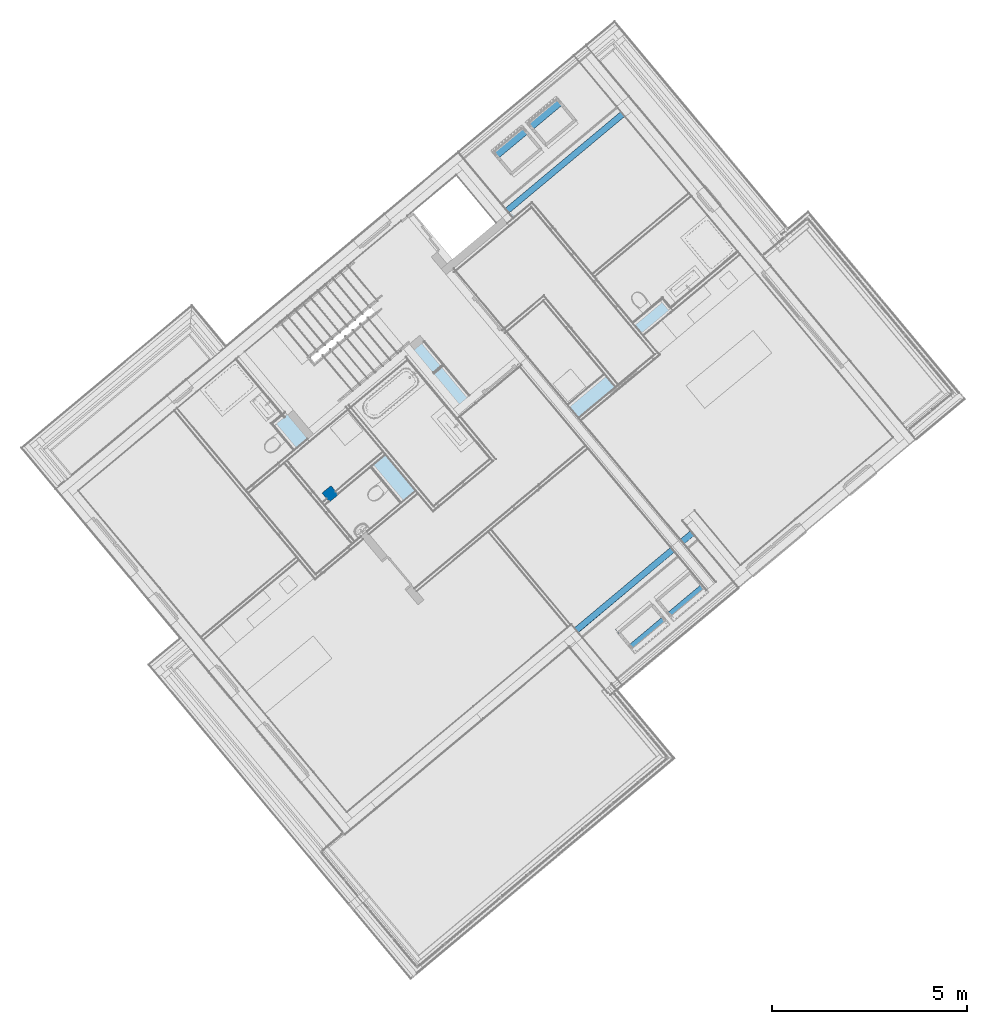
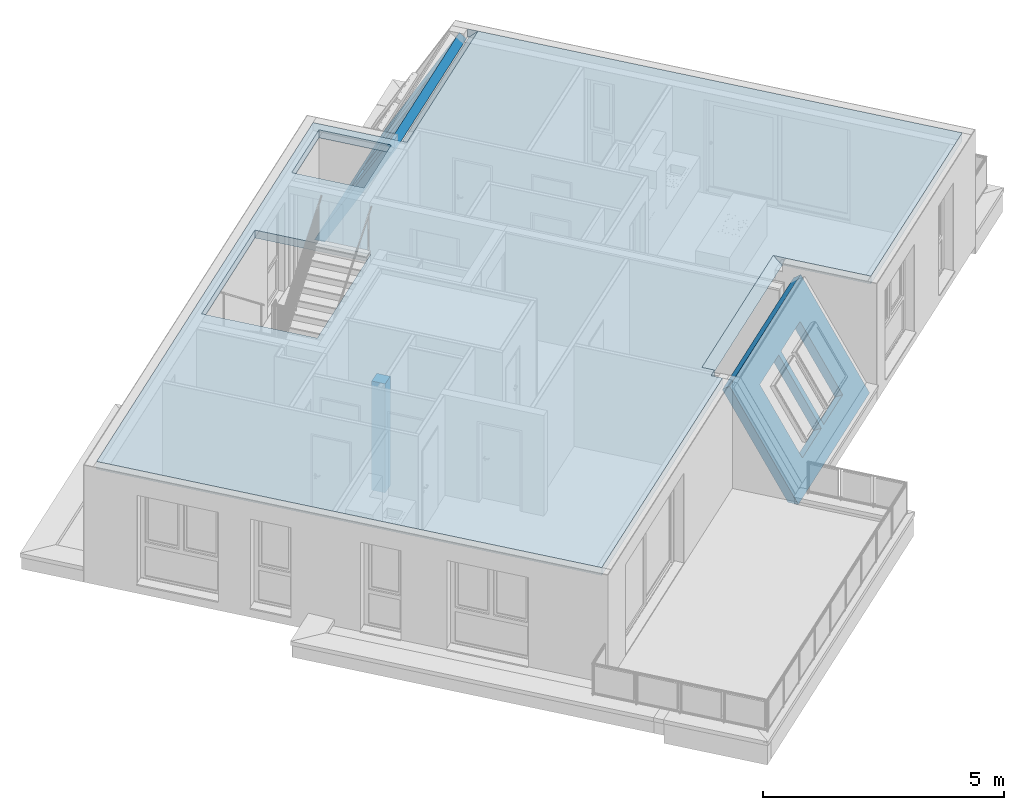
# One storey, part 8 of 58: 2 roofs, 1 column, 1 slab.
"""IFC4 building model written with IfcOpenShell, lengths in metres."""

from ifc_helpers import new_model, entity, si_unit, converted_unit, derived_unit, direction, frame, origin_with_axes, place, context, subcontext, project, spatial, polygons, material, type_object, element, save


model = new_model("IFC4")

# Units and contexts
model_context = context("Model", 3, precision=1e-05, world=origin_with_axes(), true_north=direction((0.0, 1.0)))
body_context = subcontext(model_context, "Body", "Model", "MODEL_VIEW")
ifc_project = project(units=[si_unit("LENGTHUNIT", "METRE"), si_unit("AREAUNIT", "SQUARE_METRE"), si_unit("VOLUMEUNIT", "CUBIC_METRE"), converted_unit("PLANEANGLEUNIT", "DEGREE", entity("IfcPlaneAngleMeasure", 0.0174532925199), si_unit("PLANEANGLEUNIT", "RADIAN"), dimensions=[0, 0, 0, 0, 0, 0, 0]), converted_unit("TIMEUNIT", "Year", entity("IfcTimeMeasure", 31556926.0), si_unit("TIMEUNIT", "SECOND"), dimensions=[0, 0, 1, 0, 0, 0, 0]), si_unit("MASSUNIT", "GRAM", prefix="KILO"), si_unit("THERMODYNAMICTEMPERATUREUNIT", "DEGREE_CELSIUS"), si_unit("LUMINOUSINTENSITYUNIT", "LUMEN"), si_unit("ENERGYUNIT", "JOULE", prefix="MEGA"), derived_unit("THERMALCONDUCTANCEUNIT", [(si_unit("POWERUNIT", "WATT"), 1), (si_unit("LENGTHUNIT", "METRE"), -1), (si_unit("THERMODYNAMICTEMPERATUREUNIT", "KELVIN"), -1)]), derived_unit("SPECIFICHEATCAPACITYUNIT", [(si_unit("ENERGYUNIT", "JOULE"), 1), (si_unit("MASSUNIT", "GRAM", prefix="KILO"), -1), (si_unit("THERMODYNAMICTEMPERATUREUNIT", "KELVIN"), -1)]), derived_unit("MASSDENSITYUNIT", [(si_unit("MASSUNIT", "GRAM", prefix="KILO"), 1), (si_unit("VOLUMEUNIT", "CUBIC_METRE"), -1)])], contexts=[model_context])

# Site, building, storey
site_placement = place(None, frame((-0.00153261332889, -0.00661245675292, 0.0), z_axis=(0.0, 0.0, 1.0), x_axis=(1.0, 0.0, 0.0)))
site = spatial("IfcSite", under=ifc_project, at=site_placement, Name="Site", CompositionType="ELEMENT")
building_placement = place(site_placement, origin_with_axes())
building = spatial("IfcBuilding", under=site, at=building_placement, Name="Building", CompositionType="ELEMENT")
storey_placement = place(building_placement, frame((0.0, 0.0, 5.7), z_axis=(0.0, 0.0, 1.0), x_axis=(1.0, 0.0, 0.0)))
storey = spatial("IfcBuildingStorey", under=building, at=storey_placement, Name="DG1", CompositionType="ELEMENT", Elevation=5.7)

# Column
ifc_material_1 = material(Name="Stahlbeton")
column_type = type_object("IfcColumnType", Name="Stahlbeton 300 x 300", PredefinedType="NOTDEFINED")
column_placement = place(storey_placement, frame((-1.63508592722, 18.8845477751, 0.0), z_axis=(0.0, 0.0, 1.0), x_axis=(0.776862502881, 0.62967027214, 0.0)))
element("IfcColumn", 1, at=column_placement, inside=storey, type_object=column_type, material=ifc_material_1, Name="Stütze-002", PredefinedType="NOTDEFINED", context=body_context, shape_type="Tessellation", body=[
    polygons([(0.15, -0.15, 2.76), (-0.15, -0.15, 2.76), (-0.15, -0.15, 0.0), (0.15, -0.15, 0.0), (0.15, 0.15, 2.76), (-0.15, 0.15, 2.76), (-0.15, 0.15, 0.0), (0.15, 0.15, 0.0)], [[[1, 2, 3, 4]], [[5, 6, 2, 1]], [[2, 6, 7, 3]], [[8, 4, 3, 7]], [[5, 1, 4, 8]], [[6, 5, 8, 7]]], closed=True),
])

# Slab
ifc_material_2 = material(Name="Stahlbeton Decke")
slab_type = type_object("IfcSlabType", Name="Stahlbeton Decke 200", PredefinedType="NOTDEFINED")
slab_placement = place(storey_placement, frame((-8.38023068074, 18.991205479, 2.96), z_axis=(0.0, 0.0, 1.0), x_axis=(1.0, 0.0, 0.0)))
element("IfcSlab", 2, at=slab_placement, inside=storey, type_object=slab_type, material=ifc_material_2, Name="Decke-005", PredefinedType="NOTDEFINED", context=body_context, shape_type="Tessellation", body=[
    polygons([(12.6919336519, -3.4805250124, -0.2), (12.7437763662, -3.54252169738, -0.2), (12.578281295, -3.68099220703, -0.2), (12.7419171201, -3.87656397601, -0.2), (7.14931314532, -8.5559222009, -0.2), (0.0, 0.0, -0.2), (10.0081172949, 8.36276452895, -0.2), (11.1344170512, 7.01486810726, -0.2), (11.1342858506, 7.01475837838, -0.2), (11.2091774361, 6.92509175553, -0.2), (14.4938899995, 9.66924113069, -0.2), (14.4705561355, 9.69716889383, -0.2), (14.4706942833, 9.69728432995, -0.2), (21.4752353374, 1.314617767, -0.2), (17.2472915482, -2.22292281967, -0.2), (16.1721516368, -0.937953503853, -0.2), (16.1760721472, -0.934673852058, -0.2), (15.9946207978, -0.717705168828, -0.2), (7.78853591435, 4.68298390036, -0.2), (7.02200312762, 5.60042547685, -0.2), (4.55163313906, 3.53618876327, -0.2), (6.19016126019, 1.57528442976, -0.2), (8.66053143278, 3.63952128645, -0.2), (11.0057010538, 6.84920297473, -0.2), (9.9822563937, 8.07400775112, -0.2), (8.72026993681, 7.01949414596, -0.2), (9.74301895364, 5.79407105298, -0.2), (12.5636646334, -3.32707448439, 0.0), (12.7438051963, -3.54249757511, 0.0), (12.578281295, -3.68099220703, 0.0), (12.7419171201, -3.87656397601, 0.0), (7.14931314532, -8.5559222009, 0.0), (0.0, 0.0, 0.0), (10.0081172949, 8.36276452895, 0.0), (11.1562089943, 6.98878865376, 0.0), (11.0741848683, 7.08695081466, -0.127920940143), (11.0740628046, 7.08684879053, -0.127920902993), (11.1560531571, 6.98865846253, 0.0), (11.3373665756, 6.77157450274, 0.0), (14.622130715, 9.515766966, 0.0), (14.4705631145, 9.69717472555, 0.0), (14.4706942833, 9.69728432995, 0.0), (21.4752353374, 1.314617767, 0.0), (17.2472915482, -2.22292281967, 0.0), (16.0438098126, -0.784563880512, 0.0), (16.0477878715, -0.781236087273, 0.0), (15.8663365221, -0.56426740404, 0.0), (7.78853591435, 4.68298390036, 0.0), (7.02200312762, 5.60042547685, 0.0), (4.55163313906, 3.53618876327, 0.0), (6.19016126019, 1.57528442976, 0.0), (8.66053143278, 3.63952128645, 0.0), (11.0057010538, 6.84920297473, 0.0), (9.9822563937, 8.07400775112, 0.0), (8.72026993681, 7.01949414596, 0.0), (9.74301895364, 5.79407105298, 0.0)], [[[1, 2, 3, 4, 5, 6, 7, 8, 9, 10, 11, 12, 13, 14, 15, 16, 17, 18], [19, 20, 21, 22, 23], [24, 25, 26, 27]], [[28, 29, 2, 1]], [[2, 29, 30, 3]], [[3, 30, 31, 4]], [[4, 31, 32, 5]], [[5, 32, 33, 6]], [[6, 33, 34, 7]], [[35, 36, 8, 7, 34]], [[37, 9, 8, 36]], [[37, 38, 39, 10, 9]], [[10, 39, 40, 11]], [[11, 40, 41, 12]], [[13, 12, 41, 42]], [[13, 42, 43, 14]], [[14, 43, 44, 15]], [[45, 16, 15, 44]], [[17, 16, 45, 46]], [[18, 17, 46, 47]], [[1, 18, 47, 28]], [[19, 48, 49, 20]], [[20, 49, 50, 21]], [[21, 50, 51, 22]], [[22, 51, 52, 23]], [[23, 52, 48, 19]], [[24, 53, 54, 25]], [[25, 54, 55, 26]], [[26, 55, 56, 27]], [[27, 56, 53, 24]], [[46, 45, 44, 43, 42, 41, 40, 39, 38, 35, 34, 33, 32, 31, 30, 29, 28, 47], [49, 48, 52, 51, 50], [55, 54, 53, 56]], [[37, 36, 35, 38]]], closed=True),
])

# Roofs
ifc_material_3 = material(Name="Stahlbeton Dach")
roof_type_1 = type_object("IfcRoofType", Name="Stahlbeton Dach 200", PredefinedType="NOTDEFINED")
roof_1_placement = place(storey_placement, frame((1.56920929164, 27.6332128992, -0.88392263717), z_axis=(0.0, 0.0, 1.0), x_axis=(0.767365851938, 0.641209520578, 0.0)))
element("IfcRoof", 3, at=roof_1_placement, inside=storey, type_object=roof_type_1, material=ifc_material_3, Name="Dach-001", PredefinedType="NOTDEFINED", context=body_context, shape_type="Tessellation", body=[
    polygons([(-0.134171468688, -2.07450532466, 3.59314862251), (-0.134032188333, -0.510332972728, 0.88392263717), (4.14596342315, -0.510332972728, 0.88392263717), (4.14596339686, -2.07395726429, 3.59219935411), (2.90571264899, -0.82377072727, 1.42681275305), (1.90571264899, -0.82377072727, 1.42681275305), (1.90571264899, -1.86504980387, 3.23036101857), (2.90571264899, -1.86504980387, 3.23036101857), (1.75572941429, -1.8658575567, 3.23176008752), (1.75572941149, -0.821529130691, 1.42293019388), (0.755729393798, -0.821529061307, 1.42293007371), (0.755729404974, -1.62152909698, 2.80857078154), (0.756269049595, -1.86585756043, 3.23176009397), (-0.134172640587, -1.91446549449, 3.71595150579), (-0.134027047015, -0.279392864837, 0.88392263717), (4.14596342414, -0.279392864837, 0.88392263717), (4.14596339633, -1.91391743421, 3.71500223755), (2.90571264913, -0.650565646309, 1.52681275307), (1.90571264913, -0.650565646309, 1.52681275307), (1.90571264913, -1.69184472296, 3.33036101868), (2.90571264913, -1.69184472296, 3.33036101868), (1.75572941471, -1.69265247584, 3.33176008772), (1.75572941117, -0.648324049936, 1.52293019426), (0.755729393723, -0.648323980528, 1.52293007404), (0.755729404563, -1.44832401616, 2.90857078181), (0.756269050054, -1.69265247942, 3.33176009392)], [[[1, 2, 3, 4], [5, 6, 7, 8], [9, 10, 11, 12, 13]], [[14, 15, 2, 1]], [[15, 16, 3, 2]], [[4, 3, 16, 17]], [[4, 17, 14, 1]], [[5, 18, 19, 6]], [[6, 19, 20, 7]], [[7, 20, 21, 8]], [[8, 21, 18, 5]], [[9, 22, 23, 10]], [[10, 23, 24, 11]], [[11, 24, 25, 12]], [[12, 25, 26, 13]], [[13, 26, 22, 9]], [[17, 16, 15, 14], [25, 24, 23, 22, 26], [21, 20, 19, 18]]], closed=True),
])
roof_type_2 = type_object("IfcRoofType", Name="Stahlbeton Decke 200", PredefinedType="NOTDEFINED")
roof_2_placement = place(storey_placement, frame((10.0707993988, 14.9846686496, -4.15484126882), z_axis=(0.0, 0.0, 1.0), x_axis=(-0.767011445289, -0.641633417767, 0.0)))
element("IfcRoof", 4, at=roof_2_placement, inside=storey, type_object=roof_type_2, material=ifc_material_2, Name="Dach-001", PredefinedType="NOTDEFINED", context=body_context, shape_type="Tessellation", body=[
    polygons([(4.08029558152, -2.16785861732, 4.15484126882), (-0.221142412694, -2.16785861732, 4.15484126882), (-0.220992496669, -3.68692134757, 6.7859350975), (4.08033476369, -3.68690005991, 6.78589822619), (1.8059041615, -2.43875950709, 4.62405537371), (1.80590415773, -3.37875949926, 6.25218311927), (0.665735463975, -3.37875949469, 6.25218311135), (0.665904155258, -2.43875950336, 4.62405536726), (3.09218451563, -3.37875950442, 6.2521831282), (1.95590415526, -3.37875949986, 6.25218312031), (1.95590415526, -2.43875950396, 4.6240553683), (3.09590415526, -2.43875950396, 4.6240553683), (-0.221136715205, -2.39879872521, 4.15484126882), (4.08029707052, -2.39879872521, 4.15484126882), (-0.220993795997, -3.84696117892, 6.66313221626), (4.08033442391, -3.84693989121, 6.66309534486), (1.80590415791, -3.55196457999, 6.15218311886), (1.80590416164, -2.61196458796, 4.52405537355), (0.665735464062, -3.5519645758, 6.1521831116), (0.665904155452, -2.61196458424, 4.5240553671), (1.95590415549, -3.55196458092, 6.15218312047), (3.09218451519, -3.55196458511, 6.15218312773), (1.95590415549, -2.6119645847, 4.52405536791), (3.09590415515, -2.6119645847, 4.52405536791)], [[[1, 2, 3, 4], [5, 6, 7, 8], [9, 10, 11, 12]], [[13, 2, 1, 14]], [[2, 13, 15, 3]], [[16, 4, 3, 15]], [[14, 1, 4, 16]], [[17, 6, 5, 18]], [[19, 7, 6, 17]], [[20, 8, 7, 19]], [[18, 5, 8, 20]], [[21, 10, 9, 22]], [[23, 11, 10, 21]], [[24, 12, 11, 23]], [[22, 9, 12, 24]], [[13, 14, 16, 15], [24, 23, 21, 22], [20, 19, 17, 18]]], closed=True),
])

save(model, "model.ifc")
